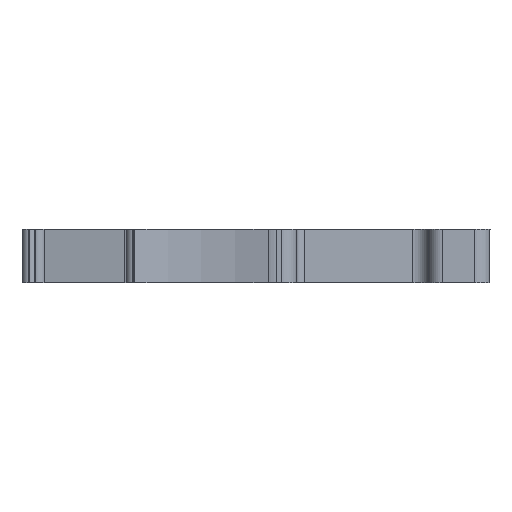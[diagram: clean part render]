
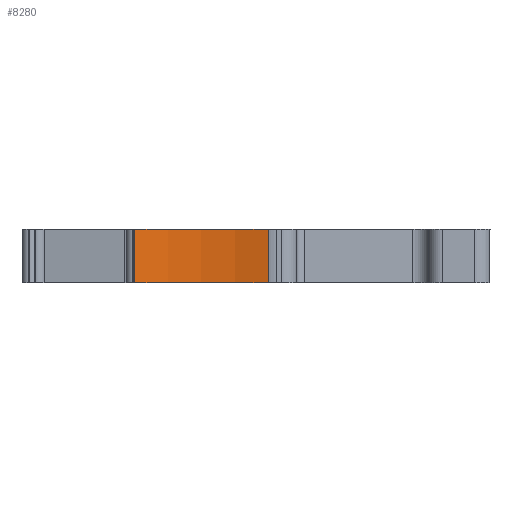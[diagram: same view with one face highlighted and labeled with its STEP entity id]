
A CAD part, left-side view. The second image highlights one B-rep face of the part: STEP entity #8280.
In plain terms, the highlighted cylindrical face has radius 15 mm (diameter 30 mm), a partial arc.
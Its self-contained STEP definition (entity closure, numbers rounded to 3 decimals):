
#7870=CARTESIAN_POINT('',(108.159,42.113,
-5.15));
#7880=DIRECTION('',(0.,0.,-1.));
#7890=DIRECTION('',(-0.924,-0.383,
0.));
#7900=AXIS2_PLACEMENT_3D('',#7870,#7880,#7890);
#7910=CYLINDRICAL_SURFACE('',#7900,15.);
#7920=CARTESIAN_POINT('',(93.221,40.744,
-3.5));
#7930=DIRECTION('',(0.,0.,-1.));
#7940=VECTOR('',#7930,1.);
#7950=LINE('',#7920,#7940);
#7960=CARTESIAN_POINT('',(93.221,40.744,
0.));
#7970=VERTEX_POINT('',#7960);
#7980=CARTESIAN_POINT('',(93.221,40.744,
-3.5));
#7990=VERTEX_POINT('',#7980);
#8000=EDGE_CURVE('',#7970,#7990,#7950,.T.);
#8010=ORIENTED_EDGE('',*,*,#8000,.F.);
#8020=CARTESIAN_POINT('',(108.159,42.113,
-3.5));
#8030=DIRECTION('',(0.,0.,-1.));
#8040=DIRECTION('',(-0.924,-0.383,
0.));
#8050=AXIS2_PLACEMENT_3D('',#8020,#8030,#8040);
#8060=CIRCLE('',#8050,15.);
#8070=CARTESIAN_POINT('',(96.487,32.691,
-3.5));
#8080=VERTEX_POINT('',#8070);
#8090=EDGE_CURVE('',#8080,#7990,#8060,.T.);
#8100=ORIENTED_EDGE('',*,*,#8090,.T.);
#8110=CARTESIAN_POINT('',(96.487,32.691,
-5.15));
#8120=DIRECTION('',(0.,0.,-1.));
#8130=VECTOR('',#8120,1.);
#8140=LINE('',#8110,#8130);
#8150=CARTESIAN_POINT('',(96.487,32.691,
0.));
#8160=VERTEX_POINT('',#8150);
#8170=EDGE_CURVE('',#8160,#8080,#8140,.T.);
#8180=ORIENTED_EDGE('',*,*,#8170,.T.);
#8190=CARTESIAN_POINT('',(108.159,42.113,
0.));
#8200=DIRECTION('',(0.,0.,-1.));
#8210=DIRECTION('',(-0.924,-0.383,
0.));
#8220=AXIS2_PLACEMENT_3D('',#8190,#8200,#8210);
#8230=CIRCLE('',#8220,15.);
#8240=EDGE_CURVE('',#8160,#7970,#8230,.T.);
#8250=ORIENTED_EDGE('',*,*,#8240,.F.);
#8260=EDGE_LOOP('',(#8250,#8180,#8100,#8010));
#8270=FACE_OUTER_BOUND('',#8260,.T.);
#8280=ADVANCED_FACE('',(#8270),#7910,.F.);
